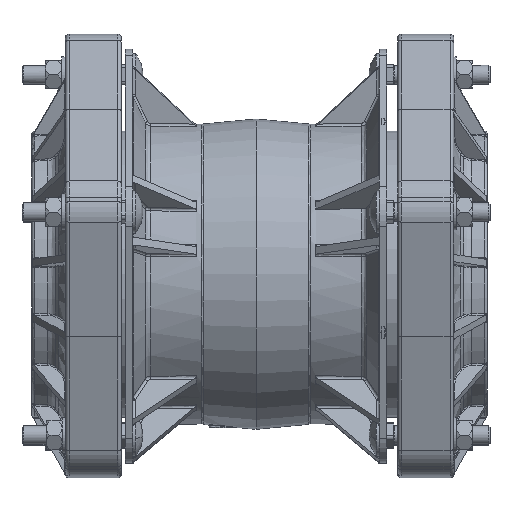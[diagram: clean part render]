
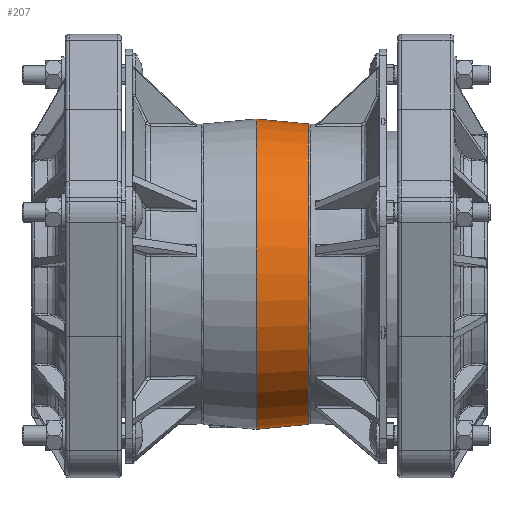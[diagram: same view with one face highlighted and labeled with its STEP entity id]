
A CAD part, top view. The second image highlights one B-rep face of the part: STEP entity #207.
In plain terms, the highlighted conical face has half-angle 5.363 degrees and reference radius 129.534 mm.
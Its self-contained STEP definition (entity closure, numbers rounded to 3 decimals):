
#180=CARTESIAN_POINT('',(-102.063,0.0,0.0));
#181=DIRECTION('',(-1.0,0.0,0.0));
#182=DIRECTION('',(0.0,-1.0,0.0));
#183=AXIS2_PLACEMENT_3D('',#180,#181,#182);
#184=CONICAL_SURFACE('',#183,129.533,5.363);
#185=CARTESIAN_POINT('',(-65.553,0.,-126.106));
#186=VERTEX_POINT('',#185);
#187=CARTESIAN_POINT('',(-65.553,0.0,0.0));
#188=DIRECTION('',(-1.0,0.0,0.0));
#189=DIRECTION('',(0.0,-1.0,0.0));
#190=AXIS2_PLACEMENT_3D('',#187,#188,#189);
#191=CIRCLE('',#190,126.106);
#192=EDGE_CURVE('',#186,#186,#191,.T.);
#193=ORIENTED_EDGE('',*,*,#192,.T.);
#194=EDGE_LOOP('',(#193));
#195=FACE_OUTER_BOUND('',#194,.T.);
#196=CARTESIAN_POINT('',(-110.0,130.279,0.));
#197=VERTEX_POINT('',#196);
#198=CARTESIAN_POINT('',(-110.0,0.0,0.0));
#199=DIRECTION('',(-1.0,0.0,0.0));
#200=DIRECTION('',(0.0,-1.0,0.0));
#201=AXIS2_PLACEMENT_3D('',#198,#199,#200);
#202=CIRCLE('',#201,130.279);
#203=EDGE_CURVE('',#197,#197,#202,.T.);
#204=ORIENTED_EDGE('',*,*,#203,.F.);
#205=EDGE_LOOP('',(#204));
#206=FACE_BOUND('',#205,.T.);
#207=ADVANCED_FACE('',(#195,#206),#184,.T.);
